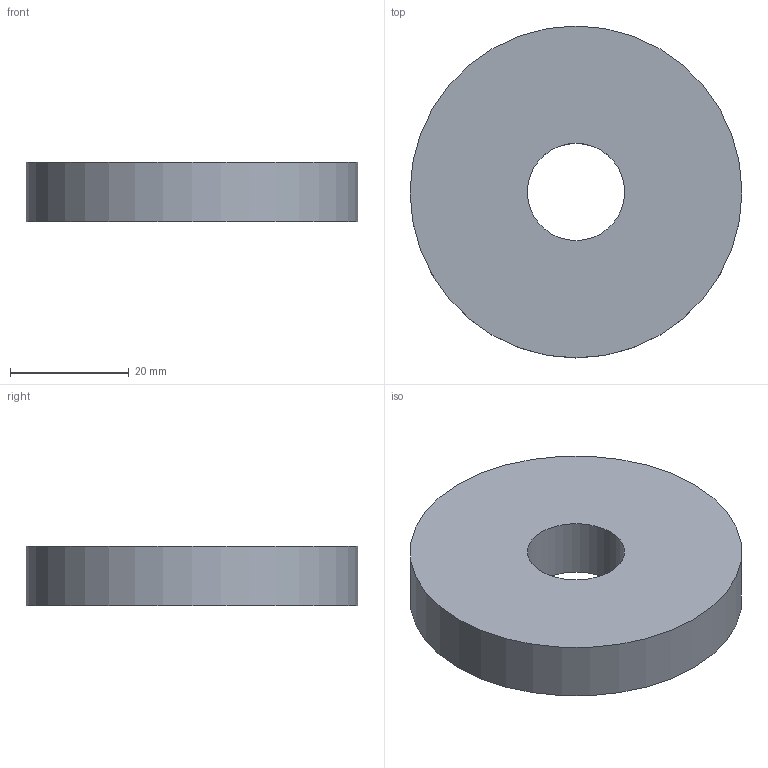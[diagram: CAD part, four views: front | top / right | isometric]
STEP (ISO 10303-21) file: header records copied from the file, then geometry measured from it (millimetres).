
FILE_DESCRIPTION(('Open CASCADE Model'),'2;1');
FILE_NAME('Open CASCADE Shape Model','2026-10-04T01:02:25',('Author'),( 'Open CASCADE'),'Open CASCADE STEP processor 8.0','Open CASCADE 8.0' ,'Unknown');
FILE_SCHEMA(('AUTOMOTIVE_DESIGN { 1 0 10303 214 1 1 1 1 }'));
Length unit declared in the file: millimetre
Products named in the file (1): Open CASCADE STEP translator 8.0 62
Bounding box: 56 x 56 x 10 mm (x, y, z)
Volume: 22517.7 mm3; surface area: 6778 mm2
Topology: 1 solids, 1 shells, 4 faces, 6 edges, 4 vertices
Faces by surface type: cylinder 2, plane 2
Full cylindrical faces by diameter (mm): 16.4 x1, 56 x1
Entity records: 186 total; most frequent: DIRECTION 32, CARTESIAN_POINT 27, ORIENTED_EDGE 12, PCURVE 12, DEFINITIONAL_REPRESENTATION 12, LINE 10, VECTOR 10, AXIS2_PLACEMENT_3D 9
